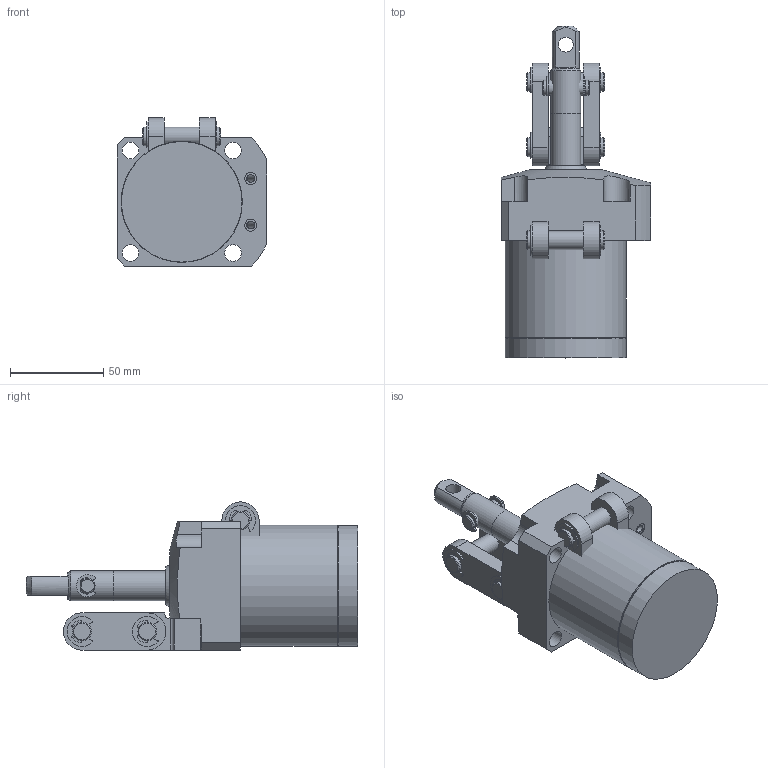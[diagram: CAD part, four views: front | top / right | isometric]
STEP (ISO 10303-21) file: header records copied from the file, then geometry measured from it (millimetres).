
FILE_DESCRIPTION( ( '' ), '1' );
FILE_NAME( 'W:/Catalogue/JL5H/JL5H42-28GR/JL5H42-28GR.stp', '2008-05-26T01:47:49', ( '機械事業部産業機器グループ' ), ( '豊和工業株式会社' ), 'XStep 1.0', ' ', ' ' );
FILE_SCHEMA( ( 'CONFIG_CONTROL_DESIGN' ) );
Length unit declared in the file: millimetre
Products named in the file (6): Assem1; 1; 2; 3; 4; 5
Bounding box: 80 x 178 x 79.5 mm (x, y, z)
Volume: 760537.1 mm3; surface area: 142494.9 mm2
Topology: 11 solids, 15 shells, 576 faces, 1491 edges, 975 vertices
Faces by surface type: plane 312, cylinder 218, cone 44, torus 2
Full cylindrical faces by diameter (mm): 2 x2, 4 x4, 6 x4, 6.5 x4, 6.6 x2, 8 x16, 9 x8, 10 x14, 11 x4, 14.5 x2, 16 x4, 18 x2, 22 x2, 26 x4, 42 x4, 64 x2, 64.7 x2, 65 x2
Entity records: 8714 total; most frequent: CARTESIAN_POINT 1707, DIRECTION 1479, ORIENTED_EDGE 1276, EDGE_CURVE 638, AXIS2_PLACEMENT_3D 576, VERTEX_POINT 453, EDGE_LOOP 385, LINE 327
